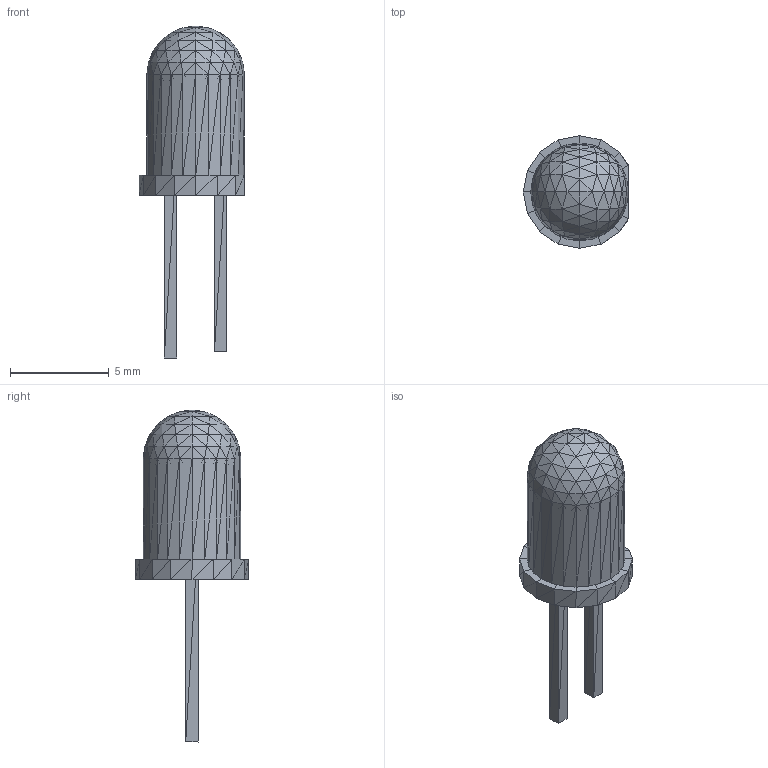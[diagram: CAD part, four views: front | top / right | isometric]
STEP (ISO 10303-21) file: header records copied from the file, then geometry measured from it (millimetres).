
FILE_DESCRIPTION(('HOOPS Exchange Step'),'2;1');
FILE_NAME('***.stp');
FILE_SCHEMA( ('AP242_MANAGED_MODEL_BASED_3D_ENGINEERING_MIM_LF {1 0 10303 442 1 1 4 }') );
Length unit declared in the file: inch
Products named in the file (6): LED500MIL_2; LED500MIL_3; LED500MIL_4; LED500MIL_5; LED500MIL_6; LED500MIL
Assembly tree (5 placements, depth 2):
  LED500MIL
    LED500MIL_2
    LED500MIL_3
    LED500MIL_4
    LED500MIL_5
    LED500MIL_6
Bounding box: 5.35 x 5.72 x 16.83 mm (x, y, z)
Surface area: 716.4 mm2 (no closed solid volume)
Topology: 0 solids, 1520 shells, 1520 faces, 1116 edges, 368 vertices
Faces by surface type: plane 1520
Entity records: 23297 total; most frequent: ORIENTED_EDGE 4560, DIRECTION 4180, CARTESIAN_POINT 3016, AXIS2_PLACEMENT_3D 1532, PLANE 1520, EDGE_LOOP 1520, FACE_BOUND 1520, ADVANCED_FACE 1520
